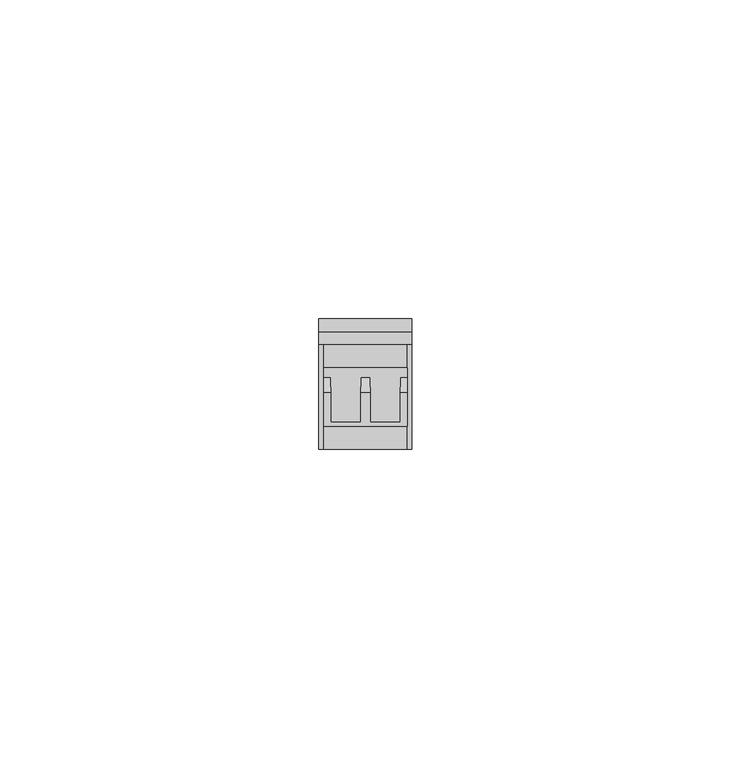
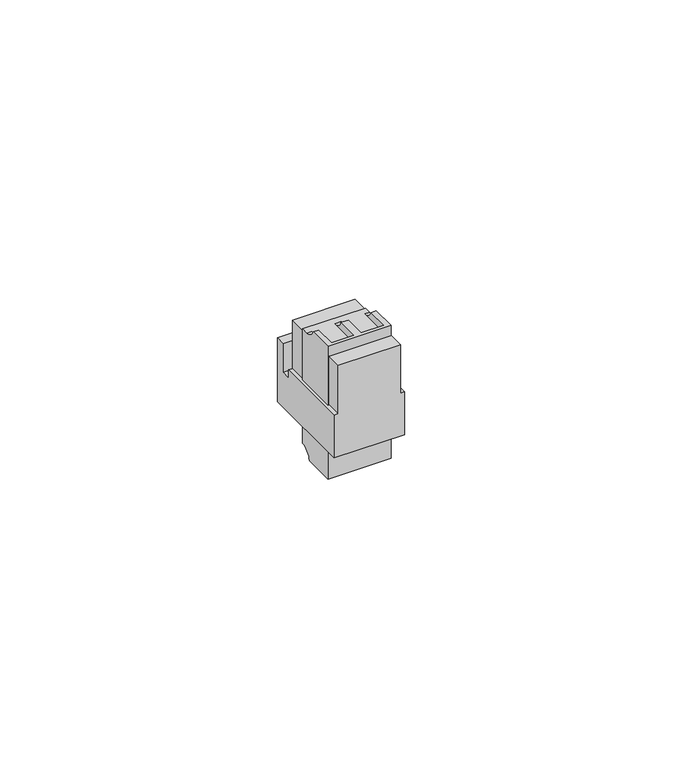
"""IFC4 building model written with IfcOpenShell, lengths in millimetres: electric appliance geometry, Data_Device-Network-Leviton-QuickPort-Adapter-Fiber : LC Multimode."""

from ifc_helpers import new_model, si_unit, frame, origin, place, context, project, spatial, polyline, circle_curve, outline, extrude, faceted_brep, source, transform, mapped, element, save
from ifc_brep_helpers import plane_surface, revolved_surface, advanced_brep


def electric_appliance_a3ce01c8(model_context):
    return source(origin(), model_context, "Body", "SolidModel", [
        advanced_brep(
        [(6.5405, 3.6191994, 2.032), (6.5405, 3.6191994, -27.178), (6.5405, 10.2365325, -27.178), (6.5405, 12.7638006, -24.892), (6.5405, 12.7638006, 0.2794), (6.5405, 11.27125, 0.2794), (6.5405, 8.8563791, 2.032), (-6.5405, 3.6191994, -27.178), (-6.5405, 3.6191994, 2.032), (-6.5405, 8.8563791, 2.032), (-6.5405, 11.27125, 0.2794), (-6.5405, 12.7638006, 0.2794), (-6.5405, 12.7638006, -24.892), (-6.5405, 10.2365325, -27.178), (5.461, 8.8563791, 2.032), (5.461, 4.2541994, 2.032), (0.7366, 4.2541994, 2.032), (0.7366, 8.8563791, 2.032), (-0.7366, 8.8563791, 2.032), (-0.7366, 4.2541994, 2.032), (-5.461, 4.2541994, 2.032), (-5.461, 8.8563791, 2.032), (-5.461, 4.2541994, 0.2794), (-0.7366, 4.2541994, 0.2794), (-0.7366, 11.27125, 0.2794), (0.7366, 11.27125, 0.2794), (0.7366, 4.2541994, 0.2794), (5.461, 4.2541994, 0.2794), (5.461, 11.27125, 0.2794), (-5.461, 11.27125, 0.2794)],
        [
            (0, 1),
            (1, 2),
            (2, 3, circle_curve(frame((6.5405, 12.7638006, -27.432), z_axis=(-1.0, 0.0, 0.0), x_axis=(0.0, 1.0, 0.0)), 2.54)),
            (3, 4),
            (4, 5),
            (5, 6, circle_curve(frame((6.5405, 11.27125, 2.8194), z_axis=(-1.0, 0.0, 0.0), x_axis=(0.0, 1.0, 0.0)), 2.54)),
            (6, 0),
            (7, 8),
            (8, 9),
            (9, 10, circle_curve(frame((-6.5405, 11.27125, 2.8194), z_axis=(1.0, 0.0, 0.0), x_axis=(0.0, 1.0, 0.0)), 2.54)),
            (10, 11),
            (11, 12),
            (12, 13, circle_curve(frame((-6.5405, 12.7638006, -27.432), z_axis=(1.0, 0.0, 0.0), x_axis=(0.0, 1.0, 0.0)), 2.54)),
            (13, 7),
            (1, 7),
            (13, 2),
            (11, 4),
            (3, 12),
            (8, 0),
            (6, 14),
            (14, 15),
            (15, 16),
            (16, 17),
            (17, 18),
            (18, 19),
            (19, 20),
            (20, 21),
            (21, 9),
            (22, 23),
            (23, 24),
            (24, 25),
            (25, 26),
            (26, 27),
            (27, 28),
            (28, 5),
            (10, 29),
            (29, 22),
            (22, 20),
            (19, 23),
            (18, 24, circle_curve(frame((-0.7366, 11.27125, 2.8194), z_axis=(1.0, 0.0, 0.0), x_axis=(0.0, 1.0, 0.0)), 2.54)),
            (29, 21, circle_curve(frame((-5.461, 11.27125, 2.8194), z_axis=(-1.0, 0.0, 0.0), x_axis=(0.0, 1.0, 0.0)), 2.54)),
            (26, 16),
            (15, 27),
            (14, 28, circle_curve(frame((5.461, 11.27125, 2.8194), z_axis=(1.0, 0.0, 0.0), x_axis=(0.0, 1.0, 0.0)), 2.54)),
            (25, 17, circle_curve(frame((0.7366, 11.27125, 2.8194), z_axis=(-1.0, 0.0, 0.0), x_axis=(0.0, 1.0, 0.0)), 2.54)),
        ],
        [
            plane_surface(frame((6.5405, 12.7638006, -27.178), z_axis=(1.0, 0.0, 0.0), x_axis=(0.0, 1.0, 0.0))),
            plane_surface(frame((-6.5405, 12.7638006, -27.178), z_axis=(-1.0, 0.0, 0.0), x_axis=(0.0, -1.0, 0.0))),
            plane_surface(frame((6.5405, 3.6191994, -27.178), z_axis=(0.0, 0.0, -1.0), x_axis=(-1.0, 0.0, 0.0))),
            plane_surface(frame((6.5405, 12.7638006, -27.178), z_axis=(0.0, 1.0, 0.0), x_axis=(-1.0, 0.0, 0.0))),
            plane_surface(frame((6.5405, 12.7638006, 2.032), z_axis=(0.0, 0.0, 1.0), x_axis=(-1.0, 0.0, 0.0))),
            plane_surface(frame((6.5405, 3.6191994, 2.032), z_axis=(0.0, -1.0, 0.0), x_axis=(-1.0, 0.0, 0.0))),
            plane_surface(frame((-0.7366, 4.2541994, 0.2794), z_axis=(0.0, 0.0, 1.0), x_axis=(-1.0, 0.0, 0.0))),
            plane_surface(frame((-5.461, 4.2541994, 2.8194), z_axis=(0.0, 1.0, 0.0), x_axis=(0.0, 0.0, -1.0))),
            plane_surface(frame((-0.7366, 4.2541994, 2.8194), z_axis=(-1.0, 0.0, 0.0), x_axis=(0.0, 0.0, -1.0))),
            plane_surface(frame((-5.461, 12.1288006, 2.8194), z_axis=(1.0, 0.0, 0.0), x_axis=(0.0, 0.0, -1.0))),
            plane_surface(frame((0.7366, 4.2541994, 2.8194), z_axis=(0.0, 1.0, 0.0), x_axis=(0.0, 0.0, -1.0))),
            plane_surface(frame((5.461, 4.2541994, 2.8194), z_axis=(-1.0, 0.0, 0.0), x_axis=(0.0, 0.0, -1.0))),
            plane_surface(frame((0.7366, 12.1288006, 2.8194), z_axis=(1.0, 0.0, 0.0), x_axis=(0.0, 0.0, -1.0))),
            revolved_surface(polyline([(0.7366000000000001, 13.811250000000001, 2.8194), (-0.7366000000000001, 13.811250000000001, 2.8194)]), (-6.5405, 11.27125, 2.8194), (1.0, 0.0, 0.0)),
            revolved_surface(polyline([(6.5405, 13.811250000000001, 2.8194), (5.461, 13.811250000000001, 2.8194)]), (-6.5405, 11.27125, 2.8194), (1.0, 0.0, 0.0)),
            revolved_surface(polyline([(-5.461, 13.811250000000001, 2.8194), (-6.5405, 13.811250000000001, 2.8194)]), (-6.5405, 11.27125, 2.8194), (1.0, 0.0, 0.0)),
            revolved_surface(polyline([(6.5405, 15.303800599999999, -27.432), (-6.5405, 15.303800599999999, -27.432)]), (-6.5405, 12.7638006, -27.432), (1.0, 0.0, 0.0)),
        ],
        [
            (0, [[1, 2, 3, 4, 5, 6, 7]]),
            (1, [[8, 9, 10, 11, 12, 13, 14]]),
            (2, [[15, -14, 16, -2]]),
            (3, [[17, -4, 18, -12]]),
            (4, [[19, -7, 20, 21, 22, 23, 24, 25, 26, 27, 28, -9]]),
            (5, [[-1, -19, -8, -15]]),
            (6, [[29, 30, 31, 32, 33, 34, 35, -5, -17, -11, 36, 37]]),
            (7, [[-29, 38, -26, 39]]),
            (8, [[-39, -25, 40, -30]]),
            (9, [[-38, -37, 41, -27]]),
            (10, [[-33, 42, -22, 43]]),
            (11, [[-43, -21, 44, -34]]),
            (12, [[-42, -32, 45, -23]]),
            (13, [[-31, -40, -24, -45]]),
            (14, [[-35, -44, -20, -6]]),
            (15, [[-36, -10, -28, -41]]),
            (16, [[-3, -16, -13, -18]]),
        ],
    ),
        faceted_brep([(6.5151, 16.383, 0.0254), (-6.5151, 16.383, 0.0254), (-6.5151, 0.0, 0.0254), (6.5151, 0.0, 0.0254), (7.3025, 0.0, -20.066), (-7.3025, 0.0, -20.066), (-7.3025, 20.447, -20.066), (7.3025, 20.447, -20.066), (6.5151, 16.383, -10.668), (7.3025, 16.383, -10.668), (7.3025, 16.383, -12.446), (-7.3025, 16.383, -12.446), (-7.3025, 16.383, -10.668), (-6.5151, 16.383, -10.668), (-7.3025, 0.0, -10.668), (-7.3025, 18.415, -12.446), (-7.3025, 18.415, -6.096), (-7.3025, 20.447, -6.096), (7.3025, 0.0, -10.668), (6.5151, 0.0, -10.668), (-6.5151, 0.0, -10.668), (7.3025, 20.447, -6.096), (7.3025, 18.415, -6.096), (7.3025, 18.415, -12.446)], [[[0, 1, 2, 3]], [[4, 5, 6, 7]], [[1, 0, 8, 9, 10, 11, 12, 13]], [[6, 5, 14, 12, 11, 15, 16, 17]], [[5, 4, 18, 19, 3, 2, 20, 14]], [[4, 7, 21, 22, 23, 10, 9, 18]], [[23, 22, 16, 15]], [[10, 23, 15, 11]], [[21, 7, 6, 17]], [[22, 21, 17, 16]], [[20, 13, 12, 14]], [[13, 20, 2, 1]], [[8, 19, 18, 9]], [[19, 8, 0, 3]]]),
        extrude(outline(polyline([(-5.461, 4.2541994), (-5.461, 12.3063), (-0.7366, 12.3063), (-0.7366, 4.2541994), (-5.461, 4.2541994)])), frame((0.0, 0.0, -0.508), z_axis=(0.0, 0.0, 1.0), x_axis=(1.0, 0.0, 0.0)), (0.0, 0.0, 1.0), 0.889),
        extrude(outline(polyline([(5.461, 4.2541994), (0.7366, 4.2541994), (0.7366, 12.3063), (5.461, 12.3063), (5.461, 4.2541994)])), frame((0.0, 0.0, -0.508), z_axis=(0.0, 0.0, 1.0), x_axis=(1.0, 0.0, 0.0)), (0.0, 0.0, 1.0), 0.889),
    ])


if __name__ == "__main__":
    model = new_model("IFC4")
    model_context = context("Model", 3, world=origin())
    ifc_project = project(units=[si_unit("LENGTHUNIT", "METRE", prefix="MILLI")], contexts=[model_context])
    site = spatial("IfcSite", under=ifc_project)
    building = spatial("IfcBuilding", under=site)
    placement = place(None, origin())
    electric_appliance_shape = electric_appliance_a3ce01c8(model_context)
    element("IfcElectricAppliance", 1, ObjectType="Data_Device-Network-Leviton-QuickPort-Adapter-Fiber : LC Multimode", at=placement, inside=building, context=model_context, shape_type="MappedRepresentation", body=[
        mapped(electric_appliance_shape, transform((0.0, 0.0, 0.0), x_axis=(1.0, 0.0, 0.0), y_axis=(0.0, 1.0, 0.0), z_axis=(0.0, 0.0, 1.0))),
    ])
    save(model, "model.ifc")
